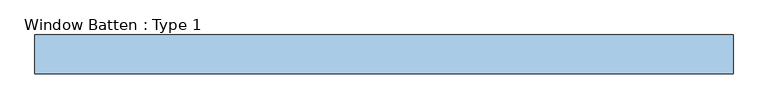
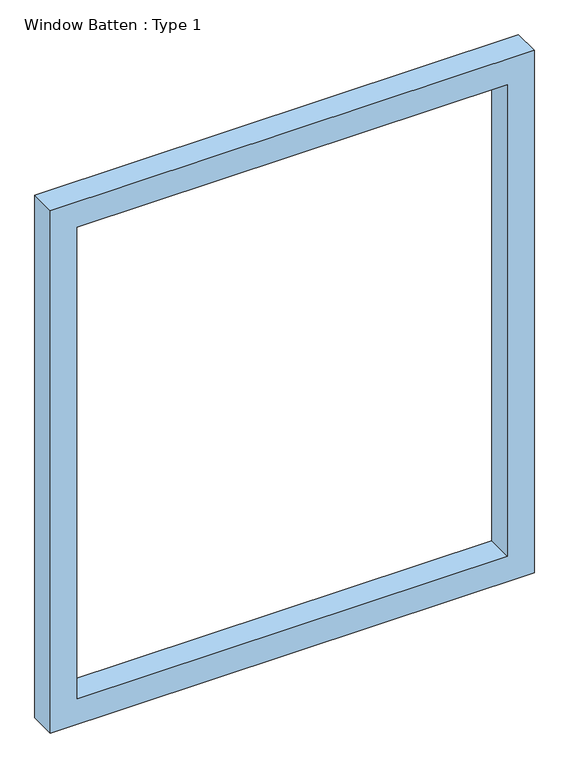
"""IFC4 building model written with IfcOpenShell, lengths in millimetres: window geometry, Window Batten : Type 1."""

from ifc_helpers import new_model, si_unit, frame, origin, place, context, project, spatial, polyline, outline, extrude, source, transform, mapped, element, save


def window_batten_type_1_b6324fda(model_context):
    return source(origin(), model_context, "Body", "SweptSolid", [
        extrude(outline(polyline([(2708.8484214, -1672.2829337), (-1392.6884944, -1672.2829337), (-1392.6884944, 1922.2829337), (2708.8484214, 1922.2829337), (2708.8484214, -1672.2829337)]), holes=[polyline([(2508.8484214, -1472.2829337), (2508.8484214, 1722.2829337), (-1192.6884944, 1722.2829337), (-1192.6884944, -1472.2829337), (2508.8484214, -1472.2829337)])]), frame((0.0, -310.0, 0.0), z_axis=(0.0, 1.0, 0.0), x_axis=(0.0, 0.0, 1.0)), (0.0, 0.0, 1.0), 200.0),
    ])


if __name__ == "__main__":
    model = new_model("IFC4")
    model_context = context("Model", 3, world=origin())
    ifc_project = project(units=[si_unit("LENGTHUNIT", "METRE", prefix="MILLI")], contexts=[model_context])
    site = spatial("IfcSite", under=ifc_project)
    building = spatial("IfcBuilding", under=site)
    placement = place(None, origin())
    window_batten_type_1_shape = window_batten_type_1_b6324fda(model_context)
    element("IfcWindow", 1, ObjectType="Window Batten : Type 1", at=placement, inside=building, context=model_context, shape_type="MappedRepresentation", body=[
        mapped(window_batten_type_1_shape, transform((0.0, 0.0, 0.0), x_axis=(1.0, 0.0, 0.0), y_axis=(0.0, 1.0, 0.0), z_axis=(0.0, 0.0, 1.0))),
    ])
    save(model, "model.ifc")
